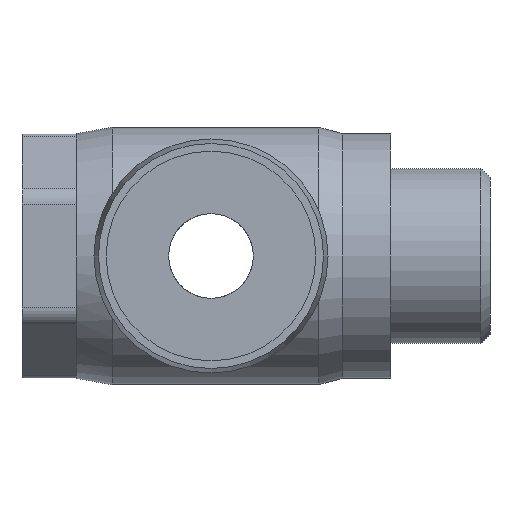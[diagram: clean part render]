
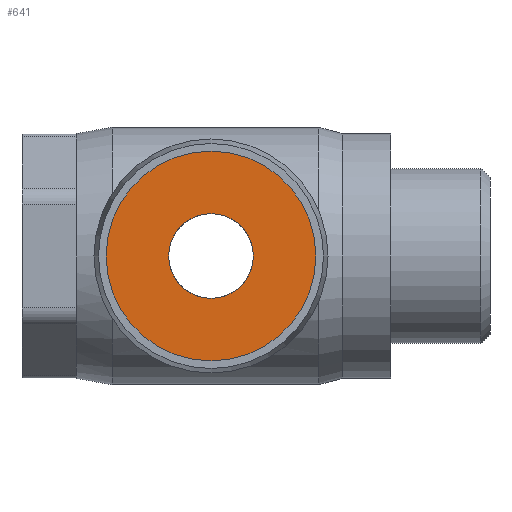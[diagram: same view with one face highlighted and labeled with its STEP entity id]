
A CAD part, left-side view. The second image highlights one B-rep face of the part: STEP entity #641.
In plain terms, the highlighted planar face has unit normal (-1, 0, 0).
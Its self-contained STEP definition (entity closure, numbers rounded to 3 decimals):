
#120=PLANE($,#723);
#154=FACE_BOUND($,#266,.T.);
#155=FACE_BOUND($,#267,.T.);
#266=EDGE_LOOP($,(#576));
#267=EDGE_LOOP($,(#577));
#293=CIRCLE($,#665,2.349);
#320=CIRCLE($,#722,5.825);
#337=VERTEX_POINT($,#1047);
#378=VERTEX_POINT($,#1237);
#395=EDGE_CURVE($,#337,#337,#293,.T.);
#448=EDGE_CURVE($,#378,#378,#320,.T.);
#576=ORIENTED_EDGE($,*,*,#395,.T.);
#577=ORIENTED_EDGE($,*,*,#448,.T.);
#641=ADVANCED_FACE($,(#154,#155),#120,.T.);
#665=AXIS2_PLACEMENT_3D($,#1048,#765,#766);
#722=AXIS2_PLACEMENT_3D($,#1238,#903,#904);
#723=AXIS2_PLACEMENT_3D($,#1239,#905,#906);
#765=DIRECTION('center_axis',(1.,0.,0.));
#766=DIRECTION('ref_axis',(0.,1.,0.));
#903=DIRECTION('center_axis',(-1.,0.,0.));
#904=DIRECTION('ref_axis',(0.,-1.,0.));
#905=DIRECTION('center_axis',(-1.,0.,0.));
#906=DIRECTION('ref_axis',(0.,0.,-1.));
#1047=CARTESIAN_POINT('',(-23.5,-2.349,0.));
#1048=CARTESIAN_POINT('Origin',(-23.5,0.,0.));
#1237=CARTESIAN_POINT('',(-23.5,-5.825,0.));
#1238=CARTESIAN_POINT('Origin',(-23.5,0.,0.));
#1239=CARTESIAN_POINT('Origin',(-23.5,-2.913,0.));
